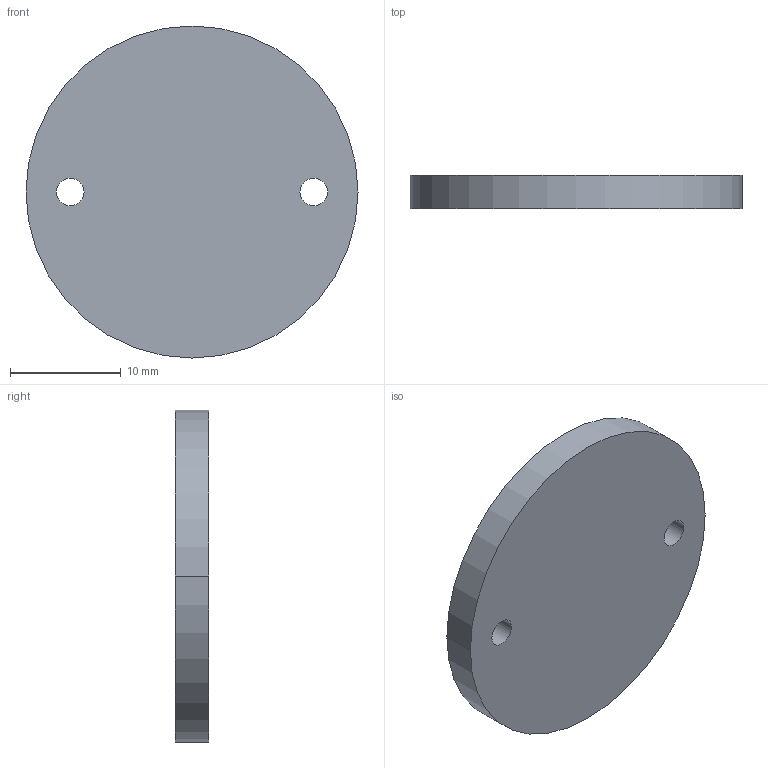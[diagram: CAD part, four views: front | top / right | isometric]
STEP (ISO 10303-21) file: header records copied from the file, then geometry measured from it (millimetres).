
FILE_DESCRIPTION(('STEP AP214'),'1');
FILE_NAME('tmp0.step','2025-04-10T19:27:38',(' '),(' '),'Spatial InterOp 3D',' ',' ');
FILE_SCHEMA(('AUTOMOTIVE_DESIGN { 1 0 10303 214 1 1 1 1 }'));
Length unit declared in the file: millimetre
Products named in the file (1): 1
Bounding box: 30 x 3 x 30 mm (x, y, z)
Volume: 2091.1 mm3; surface area: 1723.9 mm2
Topology: 1 solids, 1 shells, 8 faces, 18 edges, 12 vertices
Faces by surface type: cylinder 6, plane 2
Entity records: 267 total; most frequent: DIRECTION 48, CARTESIAN_POINT 39, ORIENTED_EDGE 36, AXIS2_PLACEMENT_3D 21, EDGE_CURVE 18, EDGE_LOOP 12, VERTEX_POINT 12, CIRCLE 12
